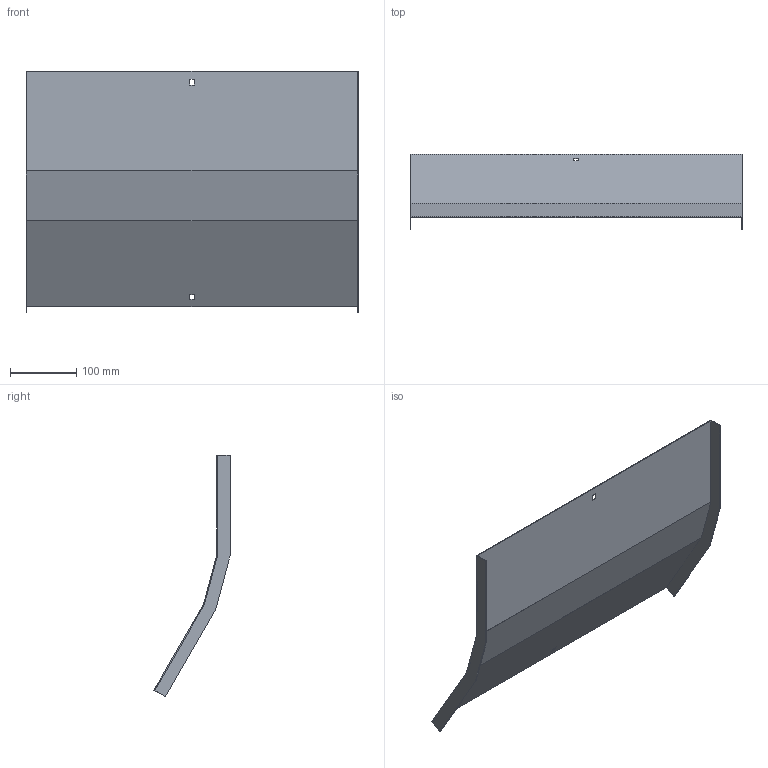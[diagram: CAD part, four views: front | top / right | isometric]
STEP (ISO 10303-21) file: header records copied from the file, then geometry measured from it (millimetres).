
FILE_DESCRIPTION (( 'STEP AP214' ), '1' );
FILE_NAME ('A2X32N3R500X.step', '2025-03-20T09:38:58', ( '' ), ( '' ), 'SwSTEP 2.0', 'SolidWorks 2023', '' );
FILE_SCHEMA (( 'AUTOMOTIVE_DESIGN' ));
Length unit declared in the file: millimetre
Products named in the file (1): A2X32N3R500X
Bounding box: 503 x 115.32 x 365.74 mm (x, y, z)
Volume: 307021.7 mm3; surface area: 412241.2 mm2
Topology: 1 solids, 1 shells, 26 faces, 72 edges, 48 vertices
Faces by surface type: plane 26
Entity records: 847 total; most frequent: CARTESIAN_POINT 147, ORIENTED_EDGE 144, DIRECTION 126, VECTOR 72, EDGE_CURVE 72, LINE 72, VERTEX_POINT 48, EDGE_LOOP 30
